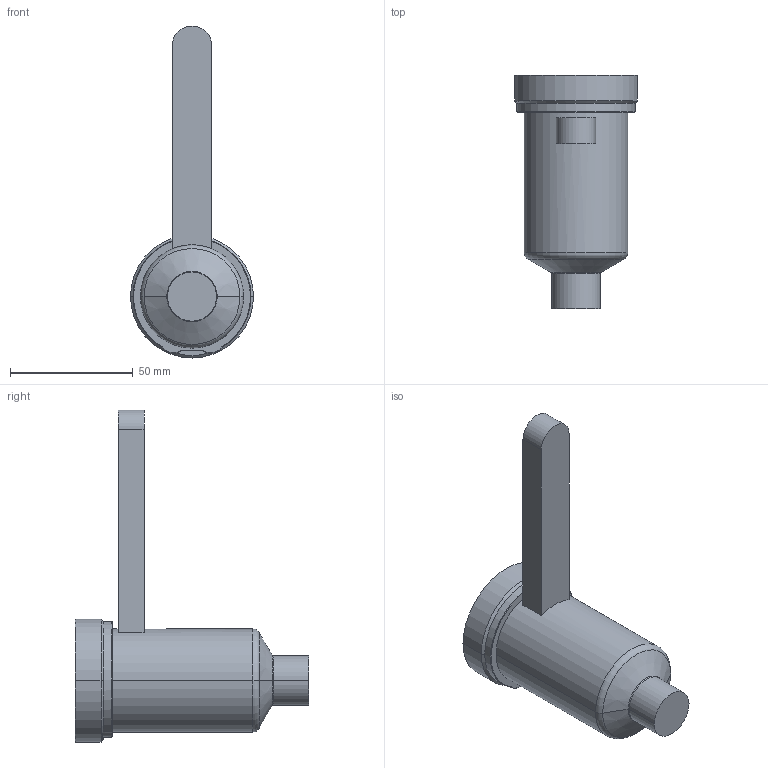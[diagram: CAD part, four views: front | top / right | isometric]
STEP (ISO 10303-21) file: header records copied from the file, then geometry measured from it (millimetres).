
FILE_DESCRIPTION((''),'2;1');
FILE_NAME('EO16_PG-FBE_STD_070_COT','2024-02-19T12:06:15',('sundharh'),(''),'CREO PARAMETRIC BY PTC INC, 2023154','CREO PARAMETRIC BY PTC INC, 2023154','');
FILE_SCHEMA(('CONFIG_CONTROL_DESIGN'));
Length unit declared in the file: millimetre
Products named in the file (1): EO16_PG-FBE_STD_070_COT
Bounding box: 50 x 95 x 135 mm (x, y, z)
Volume: 134768.2 mm3; surface area: 19615.8 mm2
Topology: 1 solids, 1 shells, 31 faces, 67 edges, 40 vertices
Faces by surface type: cylinder 11, plane 9, torus 7, cone 4
Entity records: 967 total; most frequent: CARTESIAN_POINT 234, DIRECTION 159, ORIENTED_EDGE 134, AXIS2_PLACEMENT_3D 67, EDGE_CURVE 67, VERTEX_POINT 40, CIRCLE 36, EDGE_LOOP 33
